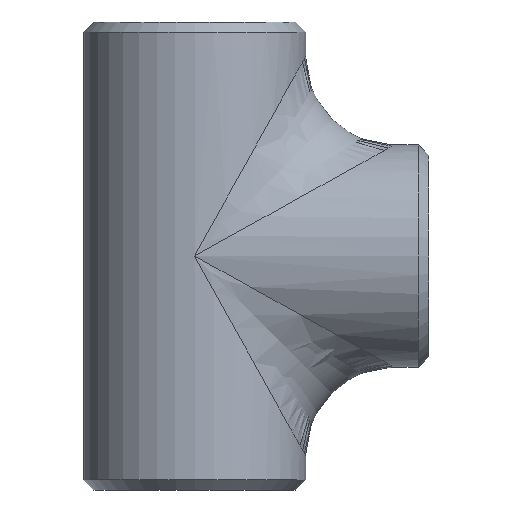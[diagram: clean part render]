
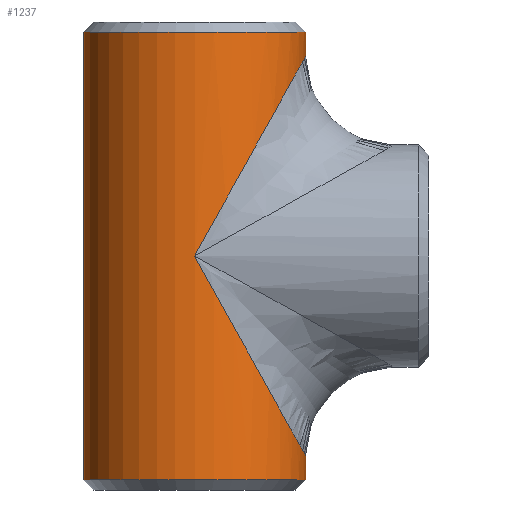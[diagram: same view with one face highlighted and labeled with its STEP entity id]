
A CAD part, front view. The second image highlights one B-rep face of the part: STEP entity #1237.
In plain terms, the highlighted cylindrical face has radius 30.15 mm (diameter 60.3 mm), a partial arc.
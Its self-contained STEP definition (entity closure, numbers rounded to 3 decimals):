
#24 = CARTESIAN_POINT ( 'NONE',  ( 30.15, 0., 60.74 ) ) ;
#40 = CARTESIAN_POINT ( 'NONE',  ( 30.15, -17.661, -54.27 ) ) ;
#46 = EDGE_LOOP ( 'NONE', ( #241, #302, #1182, #1279, #979, #1211, #447 ) ) ;
#50 = FACE_OUTER_BOUND ( 'NONE', #46, .T. ) ;
#51 = VERTEX_POINT ( 'NONE', #343 ) ;
#70 = DIRECTION ( 'NONE',  ( -1., 0., 0. ) ) ;
#72 = EDGE_CURVE ( 'NONE', #673, #51, #221, .T. ) ;
#100 = AXIS2_PLACEMENT_3D ( 'NONE', #181, #276, #860 ) ;
#140 = CARTESIAN_POINT ( 'NONE',  ( 30.15, 0., 54.27 ) ) ;
#146 = DIRECTION ( 'NONE',  ( 0., 0., -1. ) ) ;
#149 = DIRECTION ( 'NONE',  ( 0., 0., -1. ) ) ;
#158 = CIRCLE ( 'NONE', #100, 30.15 ) ;
#169 = EDGE_CURVE ( 'NONE', #1082, #51, #737, .T. ) ;
#181 = CARTESIAN_POINT ( 'NONE',  ( 0., 0., 60.74 ) ) ;
#193 = CARTESIAN_POINT ( 'NONE',  ( 0., -30.15, 0. ) ) ;
#218 = CARTESIAN_POINT ( 'NONE',  ( 30.15, 0., -54.27 ) ) ;
#221 = CIRCLE ( 'NONE', #520, 30.15 ) ;
#222 = CARTESIAN_POINT ( 'NONE',  ( 0., -30.15, 0. ) ) ;
#231 = EDGE_CURVE ( 'NONE', #297, #972, #475, .T. ) ;
#235 = CARTESIAN_POINT ( 'NONE',  ( -30.15, 0., -60.74 ) ) ;
#241 = ORIENTED_EDGE ( 'NONE', *, *, #1030, .F. ) ;
#276 = DIRECTION ( 'NONE',  ( 0., 0., -1. ) ) ;
#278 = EDGE_CURVE ( 'NONE', #472, #341, #158, .T. ) ;
#297 = VERTEX_POINT ( 'NONE', #193 ) ;
#302 = ORIENTED_EDGE ( 'NONE', *, *, #278, .T. ) ;
#332 = CARTESIAN_POINT ( 'NONE',  ( 30.15, 0., 54.27 ) ) ;
#336 = CARTESIAN_POINT ( 'NONE',  ( 0., -30.15, 0. ) ) ;
#341 = VERTEX_POINT ( 'NONE', #592 ) ;
#343 = CARTESIAN_POINT ( 'NONE',  ( 30.15, 0., -60.74 ) ) ;
#447 = ORIENTED_EDGE ( 'NONE', *, *, #231, .T. ) ;
#472 = VERTEX_POINT ( 'NONE', #24 ) ;
#475 =( BOUNDED_CURVE ( )  B_SPLINE_CURVE ( 3, ( #222, #632, #1049, #332 ),
 .UNSPECIFIED., .F., .T. ) 
 B_SPLINE_CURVE_WITH_KNOTS ( ( 4, 4 ),
 ( 1.571, 3.142 ),
 .UNSPECIFIED. ) 
 CURVE ( )  GEOMETRIC_REPRESENTATION_ITEM ( )  RATIONAL_B_SPLINE_CURVE ( ( 1., 0.805, 0.805, 1. ) ) 
 REPRESENTATION_ITEM ( '' )  );
#520 = AXIS2_PLACEMENT_3D ( 'NONE', #957, #1058, #624 ) ;
#531 = CARTESIAN_POINT ( 'NONE',  ( 17.661, -30.15, -31.791 ) ) ;
#567 =( BOUNDED_CURVE ( )  B_SPLINE_CURVE ( 3, ( #1167, #40, #531, #336 ),
 .UNSPECIFIED., .F., .F. ) 
 B_SPLINE_CURVE_WITH_KNOTS ( ( 4, 4 ),
 ( 3.142, 4.712 ),
 .UNSPECIFIED. ) 
 CURVE ( )  GEOMETRIC_REPRESENTATION_ITEM ( )  RATIONAL_B_SPLINE_CURVE ( ( 1., 0.805, 0.805, 1. ) ) 
 REPRESENTATION_ITEM ( '' )  );
#592 = CARTESIAN_POINT ( 'NONE',  ( -30.15, 0., 60.74 ) ) ;
#624 = DIRECTION ( 'NONE',  ( 1., 0., 0. ) ) ;
#632 = CARTESIAN_POINT ( 'NONE',  ( 17.661, -30.15, 31.791 ) ) ;
#673 = VERTEX_POINT ( 'NONE', #235 ) ;
#737 = LINE ( 'NONE', #944, #1155 ) ;
#754 = DIRECTION ( 'NONE',  ( 0., 0., -1. ) ) ;
#768 = LINE ( 'NONE', #1074, #1047 ) ;
#772 = DIRECTION ( 'NONE',  ( 0., 0., -1. ) ) ;
#826 = AXIS2_PLACEMENT_3D ( 'NONE', #1199, #772, #70 ) ;
#860 = DIRECTION ( 'NONE',  ( 1., 0., 0. ) ) ;
#864 = CARTESIAN_POINT ( 'NONE',  ( -30.15, 0., 63.5 ) ) ;
#944 = CARTESIAN_POINT ( 'NONE',  ( 30.15, 0., 63.5 ) ) ;
#957 = CARTESIAN_POINT ( 'NONE',  ( 0., 0., -60.74 ) ) ;
#972 = VERTEX_POINT ( 'NONE', #140 ) ;
#979 = ORIENTED_EDGE ( 'NONE', *, *, #169, .F. ) ;
#989 = EDGE_CURVE ( 'NONE', #1082, #297, #567, .T. ) ;
#1023 = VECTOR ( 'NONE', #146, 1000. ) ;
#1030 = EDGE_CURVE ( 'NONE', #472, #972, #768, .T. ) ;
#1047 = VECTOR ( 'NONE', #149, 1000. ) ;
#1049 = CARTESIAN_POINT ( 'NONE',  ( 30.15, -17.661, 54.27 ) ) ;
#1058 = DIRECTION ( 'NONE',  ( 0., 0., 1. ) ) ;
#1074 = CARTESIAN_POINT ( 'NONE',  ( 30.15, 0., 63.5 ) ) ;
#1082 = VERTEX_POINT ( 'NONE', #218 ) ;
#1150 = EDGE_CURVE ( 'NONE', #341, #673, #1271, .T. ) ;
#1155 = VECTOR ( 'NONE', #754, 1000. ) ;
#1167 = CARTESIAN_POINT ( 'NONE',  ( 30.15, 0., -54.27 ) ) ;
#1182 = ORIENTED_EDGE ( 'NONE', *, *, #1150, .T. ) ;
#1199 = CARTESIAN_POINT ( 'NONE',  ( 0., 0., 63.5 ) ) ;
#1211 = ORIENTED_EDGE ( 'NONE', *, *, #989, .T. ) ;
#1237 = ADVANCED_FACE ( 'NONE', ( #50 ), #1303, .T. ) ;
#1271 = LINE ( 'NONE', #864, #1023 ) ;
#1279 = ORIENTED_EDGE ( 'NONE', *, *, #72, .T. ) ;
#1303 = CYLINDRICAL_SURFACE ( 'NONE', #826, 30.15 ) ;
